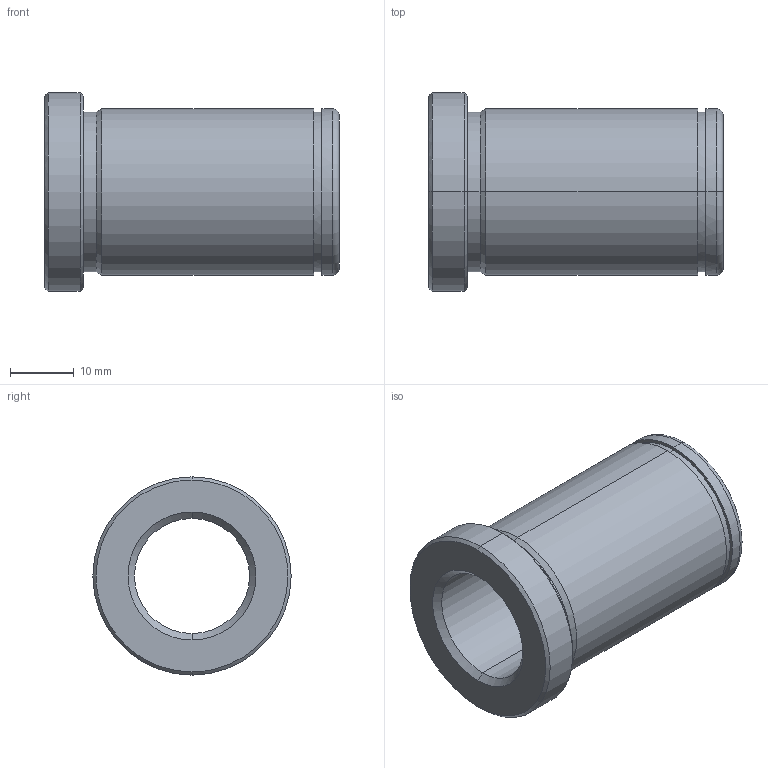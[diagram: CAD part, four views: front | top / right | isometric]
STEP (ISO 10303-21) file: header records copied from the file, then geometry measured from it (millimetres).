
FILE_DESCRIPTION(('CATIA V5 STEP Exchange'),'2;1');
FILE_NAME('C:\Users\Utente\Desktop\IO LAVORO\3D X SITO CF\X SITO\PLASTICA\553\553-18X46.stp','2021-05-23T17:29:49+00:00',('none'),('none'),'CATIA Version 5 Release 20 GA (IN-10)','CATIA V5 STEP AP203','none');
FILE_SCHEMA(('CONFIG_CONTROL_DESIGN'));
Length unit declared in the file: millimetre
Products named in the file (1): 553-18X46
Bounding box: 46 x 31 x 31 mm (x, y, z)
Volume: 13811.6 mm3; surface area: 7412.2 mm2
Topology: 1 solids, 1 shells, 29 faces, 92 edges, 68 vertices
Faces by surface type: cylinder 12, cone 8, plane 5, torus 4
Entity records: 1222 total; most frequent: CARTESIAN_POINT 368, ORIENTED_EDGE 184, DIRECTION 136, EDGE_CURVE 92, AXIS2_PLACEMENT_3D 88, VERTEX_POINT 68, CIRCLE 58, EDGE_LOOP 34
